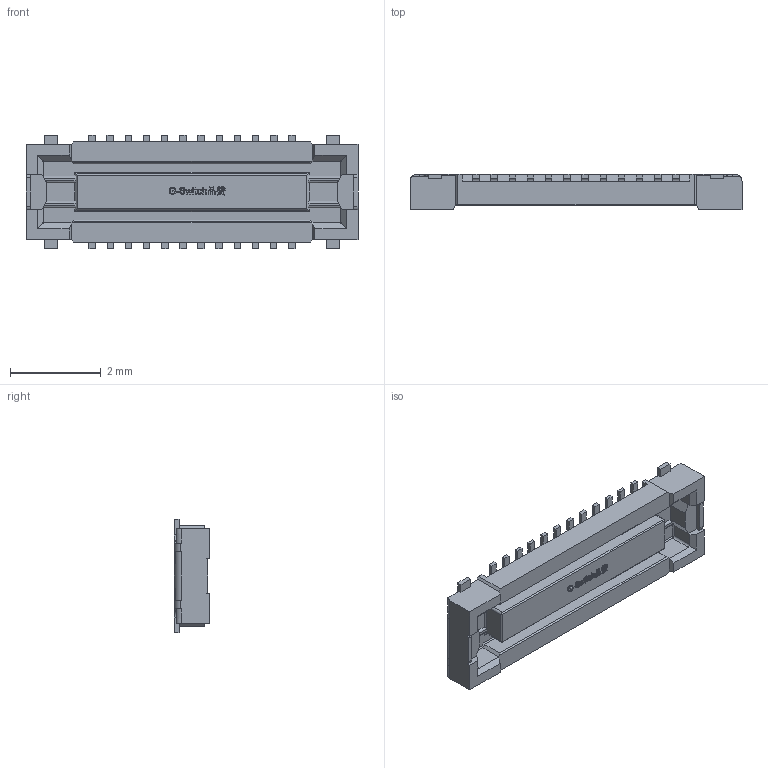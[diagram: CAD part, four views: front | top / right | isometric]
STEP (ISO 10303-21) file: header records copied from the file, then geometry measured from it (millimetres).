
FILE_DESCRIPTION (( 'STEP AP203' ), '1' );
FILE_NAME ('GT-B0401FSV08-XXXXX01.stp', '2023-12-30T09:50:26', ( 'Microsoft' ), ( 'Microsoft' ), 'SwSTEP 2.0', 'SolidWorks 2023', '' );
FILE_SCHEMA (( 'CONFIG_CONTROL_DESIGN' ));
Length unit declared in the file: millimetre
Products named in the file (1): GT-B0401FSV08-XXXXX01
Bounding box: 7.3 x 0.77 x 2.5 mm (x, y, z)
Volume: 8 mm3; surface area: 66.9 mm2
Topology: 1 solids, 49 shells, 1242 faces, 3210 edges, 2086 vertices
Faces by surface type: plane 922, cylinder 246, bspline 74
Entity records: 41069 total; most frequent: CARTESIAN_POINT 11093, ORIENTED_EDGE 6420, DIRECTION 5756, EDGE_CURVE 3210, LINE 2462, VECTOR 2462, VERTEX_POINT 2086, AXIS2_PLACEMENT_3D 1647
